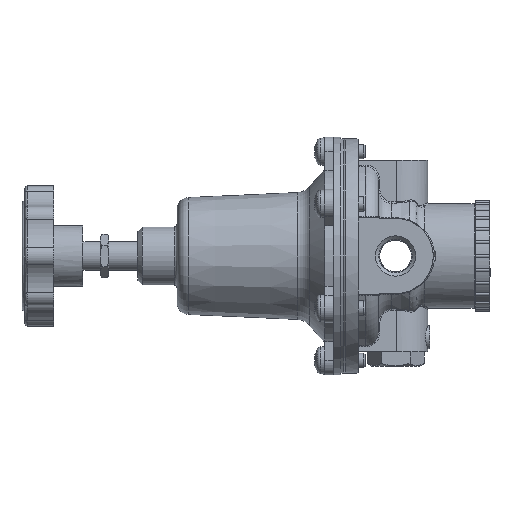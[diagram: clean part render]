
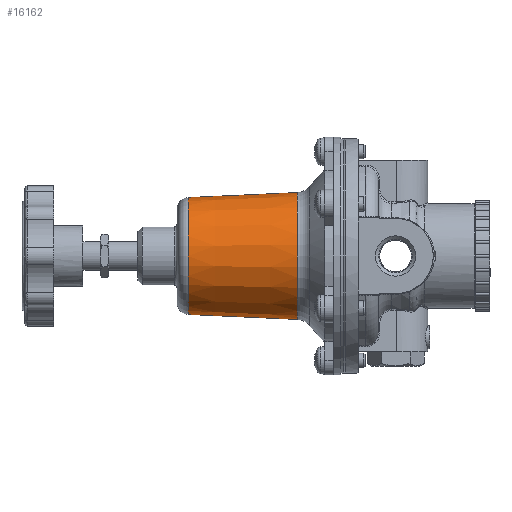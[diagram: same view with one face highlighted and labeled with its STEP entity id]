
A CAD part, left-side view. The second image highlights one B-rep face of the part: STEP entity #16162.
In plain terms, the highlighted conical face has half-angle 2.603 degrees and reference radius 21 mm.
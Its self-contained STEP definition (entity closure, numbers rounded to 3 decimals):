
#302=CONICAL_SURFACE('',#17946,21.,0.045);
#1497=B_SPLINE_CURVE_WITH_KNOTS('',3,(#31534,#31535,#31536,#31537,#31538,
#31539,#31540,#31541,#31542,#31543,#31544,#31545,#31546,#31547,#31548,#31549,
#31550,#31551,#31552,#31553,#31554,#31555,#31556,#31557,#31558,#31559),
 .UNSPECIFIED.,.F.,.F.,(4,2,2,2,2,2,2,2,2,2,2,2,4),(0.,0.075,
0.15,0.225,0.301,0.376,
0.451,0.526,0.601,0.677,
0.753,0.828,0.904),.UNSPECIFIED.);
#1498=B_SPLINE_CURVE_WITH_KNOTS('',3,(#31560,#31561,#31562,#31563,#31564,
#31565,#31566,#31567,#31568,#31569),.UNSPECIFIED.,.F.,.F.,(4,2,2,2,4),(0.904,
0.98,1.055,1.131,1.207),
 .UNSPECIFIED.);
#1790=FACE_BOUND('',#4900,.T.);
#2296=LINE('',#31846,#3067);
#3067=VECTOR('',#21667,21.);
#3916=FACE_OUTER_BOUND('',#4899,.T.);
#4899=EDGE_LOOP('',(#13340,#13341,#13342,#13343,#13344,#13345));
#4900=EDGE_LOOP('',(#13346,#13347));
#5962=CIRCLE('',#17941,21.884);
#5966=CIRCLE('',#17945,21.884);
#5967=CIRCLE('',#17947,20.174);
#5968=CIRCLE('',#17948,20.174);
#7240=VERTEX_POINT('',#31532);
#7241=VERTEX_POINT('',#31533);
#7324=VERTEX_POINT('',#31835);
#7325=VERTEX_POINT('',#31836);
#7328=VERTEX_POINT('',#31845);
#7329=VERTEX_POINT('',#31847);
#9306=EDGE_CURVE('',#7240,#7241,#1497,.T.);
#9307=EDGE_CURVE('',#7241,#7240,#1498,.T.);
#9440=EDGE_CURVE('',#7324,#7325,#5962,.T.);
#9444=EDGE_CURVE('',#7325,#7324,#5966,.T.);
#9445=EDGE_CURVE('',#7324,#7328,#2296,.T.);
#9446=EDGE_CURVE('',#7329,#7328,#5967,.T.);
#9447=EDGE_CURVE('',#7328,#7329,#5968,.T.);
#13340=ORIENTED_EDGE('',*,*,#9440,.F.);
#13341=ORIENTED_EDGE('',*,*,#9445,.T.);
#13342=ORIENTED_EDGE('',*,*,#9446,.F.);
#13343=ORIENTED_EDGE('',*,*,#9447,.F.);
#13344=ORIENTED_EDGE('',*,*,#9445,.F.);
#13345=ORIENTED_EDGE('',*,*,#9444,.F.);
#13346=ORIENTED_EDGE('',*,*,#9306,.T.);
#13347=ORIENTED_EDGE('',*,*,#9307,.T.);
#16162=ADVANCED_FACE('',(#3916,#1790),#302,.T.);
#17941=AXIS2_PLACEMENT_3D('',#31837,#21655,#21656);
#17945=AXIS2_PLACEMENT_3D('',#31843,#21663,#21664);
#17946=AXIS2_PLACEMENT_3D('',#31844,#21665,#21666);
#17947=AXIS2_PLACEMENT_3D('',#31848,#21668,#21669);
#17948=AXIS2_PLACEMENT_3D('',#31849,#21670,#21671);
#21655=DIRECTION('center_axis',(0.,-1.,0.));
#21656=DIRECTION('ref_axis',(1.,0.,0.));
#21663=DIRECTION('center_axis',(0.,-1.,0.));
#21664=DIRECTION('ref_axis',(1.,0.,0.));
#21665=DIRECTION('center_axis',(0.,-1.,0.));
#21666=DIRECTION('ref_axis',(-1.,0.,0.));
#21667=DIRECTION('',(-0.045,0.999,0.));
#21668=DIRECTION('center_axis',(0.,1.,0.));
#21669=DIRECTION('ref_axis',(1.,0.,0.));
#21670=DIRECTION('center_axis',(0.,1.,0.));
#21671=DIRECTION('ref_axis',(1.,0.,0.));
#31532=CARTESIAN_POINT('',(-20.79,-32.991,-2.));
#31533=CARTESIAN_POINT('',(-20.977,-35.,0.));
#31534=CARTESIAN_POINT('Ctrl Pts',(-20.79,-32.991,
-2.));
#31535=CARTESIAN_POINT('Ctrl Pts',(-20.779,-32.741,
-1.999));
#31536=CARTESIAN_POINT('Ctrl Pts',(-20.772,-32.474,
-1.948));
#31537=CARTESIAN_POINT('Ctrl Pts',(-20.767,-31.984,
-1.743));
#31538=CARTESIAN_POINT('Ctrl Pts',(-20.77,-31.76,
-1.589));
#31539=CARTESIAN_POINT('Ctrl Pts',(-20.778,-31.406,
-1.234));
#31540=CARTESIAN_POINT('Ctrl Pts',(-20.784,-31.253,
-1.009));
#31541=CARTESIAN_POINT('Ctrl Pts',(-20.793,-31.05,
-0.518));
#31542=CARTESIAN_POINT('Ctrl Pts',(-20.795,-31.,
-0.251));
#31543=CARTESIAN_POINT('Ctrl Pts',(-20.795,-31.,
0.251));
#31544=CARTESIAN_POINT('Ctrl Pts',(-20.793,-31.05,0.518));
#31545=CARTESIAN_POINT('Ctrl Pts',(-20.784,-31.253,
1.009));
#31546=CARTESIAN_POINT('Ctrl Pts',(-20.778,-31.406,
1.234));
#31547=CARTESIAN_POINT('Ctrl Pts',(-20.77,-31.76,
1.589));
#31548=CARTESIAN_POINT('Ctrl Pts',(-20.767,-31.984,
1.743));
#31549=CARTESIAN_POINT('Ctrl Pts',(-20.772,-32.474,
1.948));
#31550=CARTESIAN_POINT('Ctrl Pts',(-20.779,-32.741,
1.999));
#31551=CARTESIAN_POINT('Ctrl Pts',(-20.801,-33.244,2.001));
#31552=CARTESIAN_POINT('Ctrl Pts',(-20.819,-33.512,
1.952));
#31553=CARTESIAN_POINT('Ctrl Pts',(-20.859,-34.007,
1.749));
#31554=CARTESIAN_POINT('Ctrl Pts',(-20.882,-34.233,1.595));
#31555=CARTESIAN_POINT('Ctrl Pts',(-20.923,-34.589,1.24));
#31556=CARTESIAN_POINT('Ctrl Pts',(-20.943,-34.744,
1.015));
#31557=CARTESIAN_POINT('Ctrl Pts',(-20.97,-34.949,
0.521));
#31558=CARTESIAN_POINT('Ctrl Pts',(-20.977,-35.,
0.252));
#31559=CARTESIAN_POINT('Ctrl Pts',(-20.977,-35.,
0.));
#31560=CARTESIAN_POINT('Ctrl Pts',(-20.977,-35.,
0.));
#31561=CARTESIAN_POINT('Ctrl Pts',(-20.977,-35.,
-0.252));
#31562=CARTESIAN_POINT('Ctrl Pts',(-20.97,-34.949,
-0.521));
#31563=CARTESIAN_POINT('Ctrl Pts',(-20.943,-34.744,
-1.015));
#31564=CARTESIAN_POINT('Ctrl Pts',(-20.923,-34.589,-1.24));
#31565=CARTESIAN_POINT('Ctrl Pts',(-20.882,-34.233,-1.595));
#31566=CARTESIAN_POINT('Ctrl Pts',(-20.859,-34.007,
-1.749));
#31567=CARTESIAN_POINT('Ctrl Pts',(-20.819,-33.512,
-1.952));
#31568=CARTESIAN_POINT('Ctrl Pts',(-20.801,-33.244,-2.001));
#31569=CARTESIAN_POINT('Ctrl Pts',(-20.79,-32.991,
-2.));
#31835=CARTESIAN_POINT('',(21.884,-54.943,0.));
#31836=CARTESIAN_POINT('',(0.,-54.943,-21.884));
#31837=CARTESIAN_POINT('Origin',(0.,-54.943,
0.));
#31843=CARTESIAN_POINT('Origin',(0.,-54.943,
0.));
#31844=CARTESIAN_POINT('Origin',(0.,-35.5,0.));
#31845=CARTESIAN_POINT('',(20.174,-17.318,0.));
#31846=CARTESIAN_POINT('',(21.,-35.5,0.));
#31847=CARTESIAN_POINT('',(0.,-17.318,-20.174));
#31848=CARTESIAN_POINT('Origin',(0.,-17.318,
0.));
#31849=CARTESIAN_POINT('Origin',(0.,-17.318,
0.));
